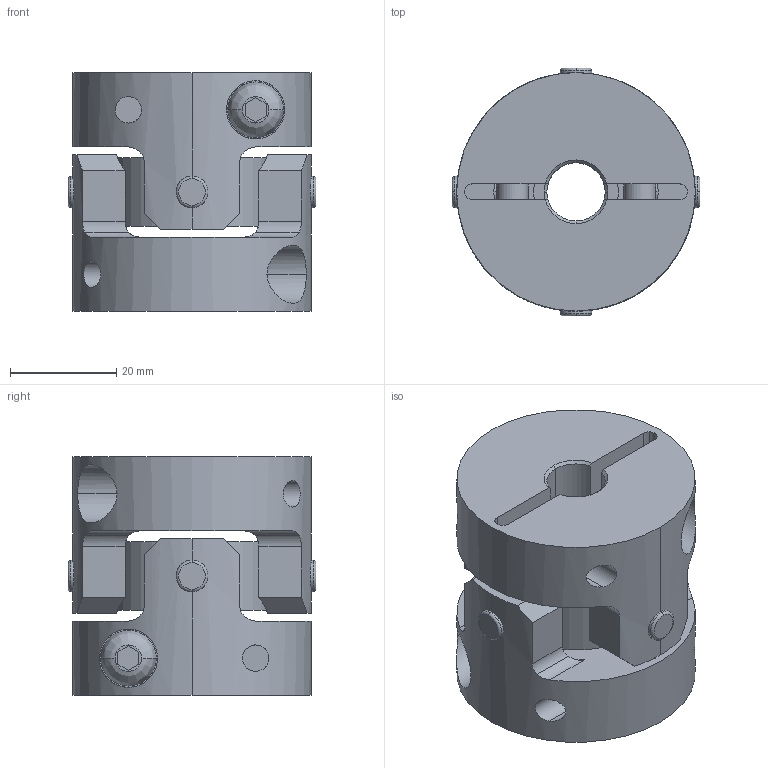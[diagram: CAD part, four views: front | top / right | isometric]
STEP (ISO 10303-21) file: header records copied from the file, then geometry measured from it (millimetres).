
FILE_DESCRIPTION((''),'2;1');
FILE_NAME('UA-45C-11×11.stp','2013-05-22T10:23:58',(''),(''),'AutoCAD STEP 2000i','AutoCAD 2000i',', , ');
FILE_SCHEMA(('CONFIG_CONTROL_DESIGN'));
Length unit declared in the file: millimetre
Products named in the file (6): UA-45C-8×8; 忣兜1; UA-4502-D08-1; BTN-M6; UA-4502-D08; UA45-SEN
Assembly tree (6 placements, depth 3):
  UA-45C-8×8
    忣兜1
    UA-4502-D08-1
      BTN-M6
    UA-4502-D08
      BTN-M6
    UA45-SEN
Bounding box: 46.73 x 46.73 x 45 mm (x, y, z)
Volume: 50694.5 mm3; surface area: 20298.1 mm2
Topology: 1 solids, 1 shells, 206 faces, 554 edges, 364 vertices
Faces by surface type: cylinder 96, plane 78, cone 16, bspline 8, torus 8
Entity records: 8523 total; most frequent: CARTESIAN_POINT 3207, ORIENTED_EDGE 1108, DIRECTION 1064, EDGE_CURVE 554, AXIS2_PLACEMENT_3D 409, VERTEX_POINT 364, VECTOR 246, LINE 246
